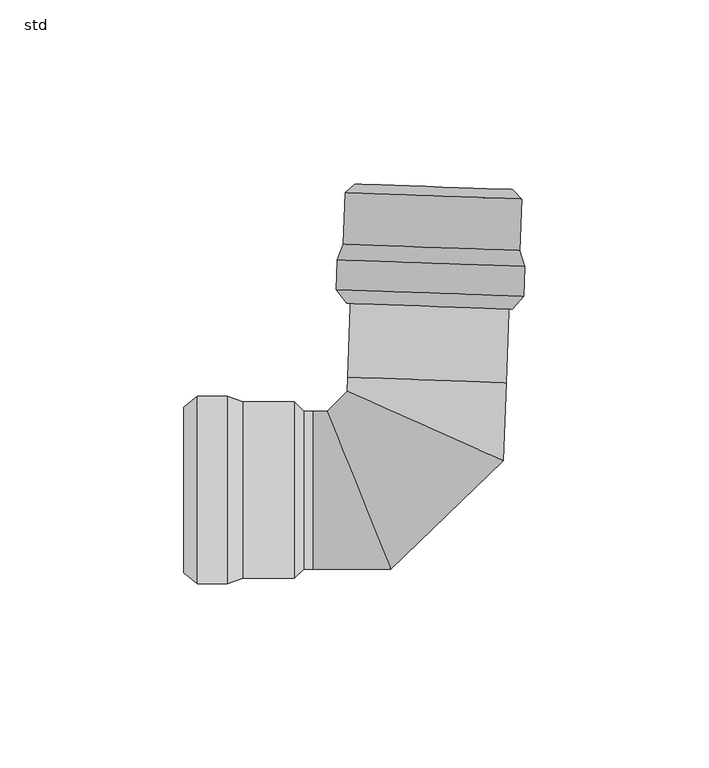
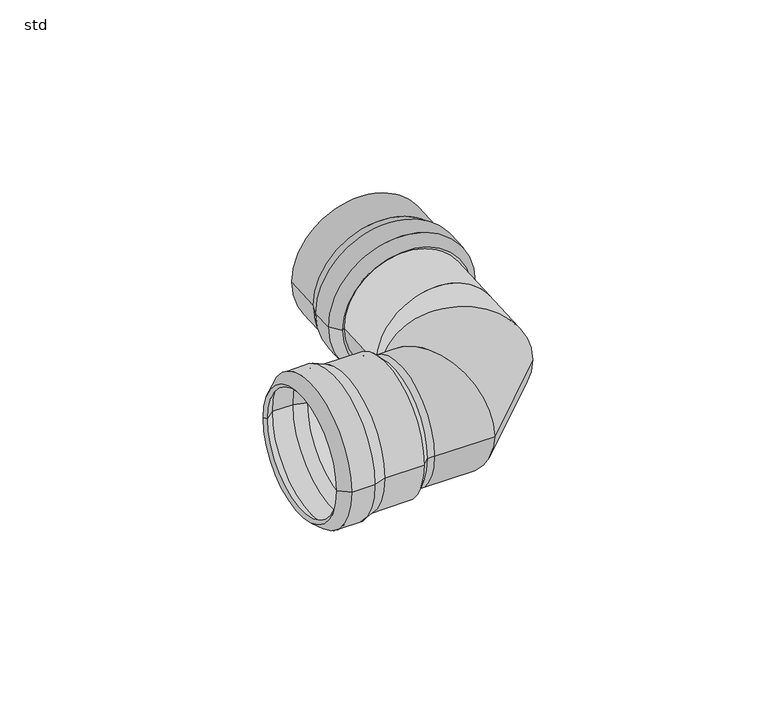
"""IFC4 building model written with IfcOpenShell, lengths in millimetres: pipe fitting geometry, PIF_ST_UN_GM-X angle bend 1a push socket_ACO : std."""

from ifc_helpers import new_model, si_unit, frame, origin, place, context, project, spatial, polyline, circle_curve, ellipse_curve, source, transform, mapped, element, save
from ifc_brep_helpers import plane_surface, cylinder_surface, revolved_surface, advanced_brep


def std_37057e49(model_context):
    return source(origin(), model_context, "Body", "AdvancedBrep", [
        advanced_brep(
        [(27.6425741, 60.7702896, 0.0), (-23.3262171, 62.5541973, 0.0), (-23.6074449, 54.5191173, 0.0), (27.3613463, 52.7352096, 0.0), (26.2938999, 65.1201261, 0.0), (-21.6767271, 66.7990981, 0.0), (-20.7373023, 50.7564212, 0.0), (24.2351605, 49.182385, 0.0), (26.7836001, 79.111559, 0.0), (-21.1870269, 80.7905309, 0.0), (24.3725764, 81.6974756, 0.0), (-18.6011103, 83.2015546, 0.0), (24.2851299, 79.1990055, 0.0), (-18.6885568, 80.7030845, 0.0), (24.7859291, 64.9186305, 0.0), (-20.1865337, 66.4926667, 0.0), (-19.6879448, 80.7380631, 0.0), (25.284518, 79.1640269, 0.0), (26.1346033, 60.568794, 0.0), (-21.8360237, 62.2477659, 0.0), (25.8810197, 53.3235488, 0.0), (-22.0896073, 55.0025208, 0.0), (23.1090431, 50.1732733, 0.0), (-19.5446632, 51.666153, 0.0)],
        [
            (0, 1, circle_curve(frame((2.1581785, 61.6622434, 0.0), z_axis=(-0.034978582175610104, -0.9993880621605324, 0.0), x_axis=(-0.9993880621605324, 0.034978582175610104, 0.0)), 25.5)),
            (1, 2),
            (2, 3, circle_curve(frame((1.8769507, 53.6271634, 0.0), z_axis=(0.034978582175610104, 0.9993880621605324, 0.0), x_axis=(-0.9993880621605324, 0.034978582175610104, 0.0)), 25.5)),
            (3, 0),
            (1, 0, circle_curve(frame((2.1581785, 61.6622434, 0.0), z_axis=(-0.034978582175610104, -0.9993880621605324, 0.0), x_axis=(-0.9993880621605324, 0.034978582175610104, 0.0)), 25.5)),
            (3, 2, circle_curve(frame((1.8769507, 53.6271634, 0.0), z_axis=(0.034978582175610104, 0.9993880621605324, 0.0), x_axis=(-0.9993880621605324, 0.034978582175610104, 0.0)), 25.5)),
            (4, 5, circle_curve(frame((2.3085864, 65.9596121, 0.0), z_axis=(-0.034978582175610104, -0.9993880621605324, 0.0), x_axis=(-0.9993880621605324, 0.034978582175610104, 0.0)), 24.0)),
            (5, 1),
            (0, 4),
            (5, 4, circle_curve(frame((2.3085864, 65.9596121, 0.0), z_axis=(-0.034978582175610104, -0.9993880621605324, 0.0), x_axis=(-0.9993880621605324, 0.034978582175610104, 0.0)), 24.0)),
            (2, 6),
            (6, 7, circle_curve(frame((1.7489291, 49.9694031, 0.0), z_axis=(0.034978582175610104, 0.9993880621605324, 0.0), x_axis=(-0.9993880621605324, 0.034978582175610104, 0.0)), 22.5)),
            (7, 3),
            (7, 6, circle_curve(frame((1.7489291, 49.9694031, 0.0), z_axis=(0.034978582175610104, 0.9993880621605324, 0.0), x_axis=(-0.9993880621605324, 0.034978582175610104, 0.0)), 22.5)),
            (8, 9, circle_curve(frame((2.7982866, 79.951045, 0.0), z_axis=(-0.034978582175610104, -0.9993880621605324, 0.0), x_axis=(-0.9993880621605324, 0.034978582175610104, 0.0)), 24.0)),
            (9, 5),
            (4, 8),
            (9, 8, circle_curve(frame((2.7982866, 79.951045, 0.0), z_axis=(-0.034978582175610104, -0.9993880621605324, 0.0), x_axis=(-0.9993880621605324, 0.034978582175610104, 0.0)), 24.0)),
            (10, 11, circle_curve(frame((2.885733, 82.4495151, 0.0), z_axis=(-0.034978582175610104, -0.9993880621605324, 0.0), x_axis=(-0.9993880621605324, 0.034978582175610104, 0.0)), 21.5)),
            (11, 9),
            (8, 10),
            (11, 10, circle_curve(frame((2.885733, 82.4495151, 0.0), z_axis=(-0.034978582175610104, -0.9993880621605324, 0.0), x_axis=(-0.9993880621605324, 0.034978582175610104, 0.0)), 21.5)),
            (12, 13, circle_curve(frame((2.7982866, 79.951045, 0.0), z_axis=(-0.034978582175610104, -0.9993880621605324, 0.0), x_axis=(-0.9993880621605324, 0.034978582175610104, 0.0)), 21.5)),
            (13, 11),
            (10, 12),
            (13, 12, circle_curve(frame((2.7982866, 79.951045, 0.0), z_axis=(-0.034978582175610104, -0.9993880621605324, 0.0), x_axis=(-0.9993880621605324, 0.034978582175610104, 0.0)), 21.5)),
            (14, 15, circle_curve(frame((2.2996977, 65.7056486, 0.0), z_axis=(-0.034978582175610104, -0.9993880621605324, 0.0), x_axis=(-0.9993880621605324, 0.034978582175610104, 0.0)), 22.5)),
            (15, 16),
            (16, 17, circle_curve(frame((2.7982866, 79.951045, 0.0), z_axis=(0.034978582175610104, 0.9993880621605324, 0.0), x_axis=(-0.9993880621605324, 0.034978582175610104, 0.0)), 22.5)),
            (17, 14),
            (15, 14, circle_curve(frame((2.2996977, 65.7056486, 0.0), z_axis=(-0.034978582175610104, -0.9993880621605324, 0.0), x_axis=(-0.9993880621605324, 0.034978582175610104, 0.0)), 22.5)),
            (17, 16, circle_curve(frame((2.7982866, 79.951045, 0.0), z_axis=(0.034978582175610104, 0.9993880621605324, 0.0), x_axis=(-0.9993880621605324, 0.034978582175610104, 0.0)), 22.5)),
            (18, 19, circle_curve(frame((2.1492898, 61.4082799, 0.0), z_axis=(-0.034978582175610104, -0.9993880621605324, 0.0), x_axis=(-0.9993880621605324, 0.034978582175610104, 0.0)), 24.0)),
            (19, 15),
            (14, 18),
            (19, 18, circle_curve(frame((2.1492898, 61.4082799, 0.0), z_axis=(-0.034978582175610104, -0.9993880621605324, 0.0), x_axis=(-0.9993880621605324, 0.034978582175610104, 0.0)), 24.0)),
            (20, 21, circle_curve(frame((1.8957062, 54.1630348, 0.0), z_axis=(-0.034978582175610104, -0.9993880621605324, 0.0), x_axis=(-0.9993880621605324, 0.034978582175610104, 0.0)), 24.0)),
            (21, 19),
            (18, 20),
            (21, 20, circle_curve(frame((1.8957062, 54.1630348, 0.0), z_axis=(-0.034978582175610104, -0.9993880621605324, 0.0), x_axis=(-0.9993880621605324, 0.034978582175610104, 0.0)), 24.0)),
            (22, 23, circle_curve(frame((1.78219, 50.9197132, 0.0), z_axis=(-0.034978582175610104, -0.9993880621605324, 0.0), x_axis=(-0.9993880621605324, 0.034978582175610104, 0.0)), 21.3399118)),
            (23, 21),
            (20, 22),
            (23, 22, circle_curve(frame((1.78219, 50.9197132, 0.0), z_axis=(-0.034978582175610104, -0.9993880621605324, 0.0), x_axis=(-0.9993880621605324, 0.034978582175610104, 0.0)), 21.3399118)),
            (6, 23),
            (22, 7),
            (16, 13),
            (12, 17),
        ],
        [
            cylinder_surface(frame((1.8663028, 53.322938, 0.0), z_axis=(0.034978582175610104, 0.9993880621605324, 0.0), x_axis=(-0.9993880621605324, 0.034978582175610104, 0.0)), 25.5),
            revolved_surface(polyline([(-23.3262171, 62.5541973, 0.0), (-21.6767271, 66.7990981, 0.0)]), (1.8663028, 53.322938, 0.0), (0.034978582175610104, 0.9993880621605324, 0.0)),
            revolved_surface(polyline([(-20.7373023, 50.7564212, 0.0), (-23.6074449, 54.5191173, 0.0)]), (1.8663028, 53.322938, 0.0), (0.034978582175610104, 0.9993880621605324, 0.0)),
            cylinder_surface(frame((1.8663028, 53.322938, 0.0), z_axis=(0.034978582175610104, 0.9993880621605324, 0.0), x_axis=(-0.9993880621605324, 0.034978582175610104, 0.0)), 24.0),
            revolved_surface(polyline([(-21.1870269, 80.7905309, 0.0), (-18.6011103, 83.2015546, 0.0)]), (1.8663028, 53.322938, 0.0), (0.034978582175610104, 0.9993880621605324, 0.0)),
            revolved_surface(polyline([(-18.60111033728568, 83.20155463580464, 0.0), (-18.688556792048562, 80.70308449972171, 0.0)]), (1.8663028, 53.322938, 0.0), (0.034978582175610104, 0.9993880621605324, 0.0)),
            revolved_surface(polyline([(-19.68794485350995, 80.73806310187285, 0.0), (-20.186533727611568, 66.49266669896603, 0.0)]), (1.8663028, 53.322938, 0.0), (0.034978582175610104, 0.9993880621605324, 0.0)),
            revolved_surface(polyline([(-20.1865337, 66.4926667, 0.0), (-21.8360237, 62.2477659, 0.0)]), (1.8663028, 53.322938, 0.0), (0.034978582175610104, 0.9993880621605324, 0.0)),
            revolved_surface(polyline([(-21.836023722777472, 62.2477659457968, 0.0), (-22.089607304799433, 55.002520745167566, 0.0)]), (1.8663028, 53.322938, 0.0), (0.034978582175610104, 0.9993880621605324, 0.0)),
            revolved_surface(polyline([(-22.0896073, 55.0025208, 0.0), (-19.5446632, 51.666153, 0.0)]), (1.8663028, 53.322938, 0.0), (0.034978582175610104, 0.9993880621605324, 0.0)),
            revolved_surface(polyline([(-19.5446632, 51.666153, 0.0), (-20.7373023, 50.7564212, 0.0)]), (1.8663028, 53.322938, 0.0), (0.034978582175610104, 0.9993880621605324, 0.0)),
            plane_surface(frame((2.7982866, 79.951045, 0.0), z_axis=(-0.034978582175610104, -0.9993880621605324, 0.0), x_axis=(-0.9993880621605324, 0.034978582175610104, 0.0))),
        ],
        [
            (0, [[1, 2, 3, 4]]),
            (0, [[5, -4, 6, -2]]),
            (1, [[7, 8, -1, 9]]),
            (1, [[10, -9, -5, -8]]),
            (2, [[-3, 11, 12, 13]]),
            (2, [[-6, -13, 14, -11]]),
            (3, [[15, 16, -7, 17]]),
            (3, [[18, -17, -10, -16]]),
            (4, [[19, 20, -15, 21]]),
            (4, [[22, -21, -18, -20]]),
            (5, [[23, 24, -19, 25]]),
            (5, [[26, -25, -22, -24]]),
            (6, [[27, 28, 29, 30]]),
            (6, [[31, -30, 32, -28]]),
            (7, [[33, 34, -27, 35]]),
            (7, [[36, -35, -31, -34]]),
            (8, [[37, 38, -33, 39]]),
            (8, [[40, -39, -36, -38]]),
            (9, [[41, 42, -37, 43]]),
            (9, [[44, -43, -40, -42]]),
            (10, [[-12, 45, -41, 46]]),
            (10, [[-14, -46, -44, -45]]),
            (11, [[-29, 47, -23, 48]]),
            (11, [[-32, -48, -26, -47]]),
        ],
    ),
        advanced_brep(
        [(-53.3, 25.5, 0.0), (-53.3, -25.5, 0.0), (-61.34, -25.5, 0.0), (-61.34, 25.5, 0.0), (-49.0, 24.0, 0.0), (-49.0, -24.0, 0.0), (-65.0, -22.5, 0.0), (-65.0, 22.5, 0.0), (-35.0, 24.0, 0.0), (-35.0, -24.0, 0.0), (-32.5, 21.5, 0.0), (-32.5, -21.5, 0.0), (-35.0, 21.5, 0.0), (-35.0, -21.5, 0.0), (-49.254119, 22.5, 0.0), (-49.254119, -22.5, 0.0), (-35.0, -22.5, 0.0), (-35.0, 22.5, 0.0), (-53.554119, 24.0, 0.0), (-53.554119, -24.0, 0.0), (-60.8038005, 24.0, 0.0), (-60.8038005, -24.0, 0.0), (-64.0491081, 21.3399118, 0.0), (-64.0491081, -21.3399118, 0.0)],
        [
            (0, 1, circle_curve(frame((-53.3, 0.0, 0.0), z_axis=(-1.0, 0.0, 0.0), x_axis=(0.0, -1.0, 0.0)), 25.5)),
            (1, 2),
            (2, 3, circle_curve(frame((-61.34, 0.0, 0.0), z_axis=(1.0, 0.0, 0.0), x_axis=(0.0, -1.0, 0.0)), 25.5)),
            (3, 0),
            (1, 0, circle_curve(frame((-53.3, 0.0, 0.0), z_axis=(-1.0, 0.0, 0.0), x_axis=(0.0, -1.0, 0.0)), 25.5)),
            (3, 2, circle_curve(frame((-61.34, 0.0, 0.0), z_axis=(1.0, 0.0, 0.0), x_axis=(0.0, -1.0, 0.0)), 25.5)),
            (4, 5, circle_curve(frame((-49.0, 0.0, 0.0), z_axis=(-1.0, 0.0, 0.0), x_axis=(0.0, -1.0, 0.0)), 24.0)),
            (5, 1),
            (0, 4),
            (5, 4, circle_curve(frame((-49.0, 0.0, 0.0), z_axis=(-1.0, 0.0, 0.0), x_axis=(0.0, -1.0, 0.0)), 24.0)),
            (2, 6),
            (6, 7, circle_curve(frame((-65.0, 0.0, 0.0), z_axis=(1.0, 0.0, 0.0), x_axis=(0.0, -1.0, 0.0)), 22.5)),
            (7, 3),
            (7, 6, circle_curve(frame((-65.0, 0.0, 0.0), z_axis=(1.0, 0.0, 0.0), x_axis=(0.0, -1.0, 0.0)), 22.5)),
            (8, 9, circle_curve(frame((-35.0, 0.0, 0.0), z_axis=(-1.0, 0.0, 0.0), x_axis=(0.0, -1.0, 0.0)), 24.0)),
            (9, 5),
            (4, 8),
            (9, 8, circle_curve(frame((-35.0, 0.0, 0.0), z_axis=(-1.0, 0.0, 0.0), x_axis=(0.0, -1.0, 0.0)), 24.0)),
            (10, 11, circle_curve(frame((-32.5, 0.0, 0.0), z_axis=(-1.0, 0.0, 0.0), x_axis=(0.0, -1.0, 0.0)), 21.5)),
            (11, 9),
            (8, 10),
            (11, 10, circle_curve(frame((-32.5, 0.0, 0.0), z_axis=(-1.0, 0.0, 0.0), x_axis=(0.0, -1.0, 0.0)), 21.5)),
            (12, 13, circle_curve(frame((-35.0, 0.0, 0.0), z_axis=(-1.0, 0.0, 0.0), x_axis=(0.0, -1.0, 0.0)), 21.5)),
            (13, 11),
            (10, 12),
            (13, 12, circle_curve(frame((-35.0, 0.0, 0.0), z_axis=(-1.0, 0.0, 0.0), x_axis=(0.0, -1.0, 0.0)), 21.5)),
            (14, 15, circle_curve(frame((-49.254119, 0.0, 0.0), z_axis=(-1.0, 0.0, 0.0), x_axis=(0.0, -1.0, 0.0)), 22.5)),
            (15, 16),
            (16, 17, circle_curve(frame((-35.0, 0.0, 0.0), z_axis=(1.0, 0.0, 0.0), x_axis=(0.0, -1.0, 0.0)), 22.5)),
            (17, 14),
            (15, 14, circle_curve(frame((-49.254119, 0.0, 0.0), z_axis=(-1.0, 0.0, 0.0), x_axis=(0.0, -1.0, 0.0)), 22.5)),
            (17, 16, circle_curve(frame((-35.0, 0.0, 0.0), z_axis=(1.0, 0.0, 0.0), x_axis=(0.0, -1.0, 0.0)), 22.5)),
            (18, 19, circle_curve(frame((-53.554119, 0.0, 0.0), z_axis=(-1.0, 0.0, 0.0), x_axis=(0.0, -1.0, 0.0)), 24.0)),
            (19, 15),
            (14, 18),
            (19, 18, circle_curve(frame((-53.554119, 0.0, 0.0), z_axis=(-1.0, 0.0, 0.0), x_axis=(0.0, -1.0, 0.0)), 24.0)),
            (20, 21, circle_curve(frame((-60.8038005, 0.0, 0.0), z_axis=(-1.0, 0.0, 0.0), x_axis=(0.0, -1.0, 0.0)), 24.0)),
            (21, 19),
            (18, 20),
            (21, 20, circle_curve(frame((-60.8038005, 0.0, 0.0), z_axis=(-1.0, 0.0, 0.0), x_axis=(0.0, -1.0, 0.0)), 24.0)),
            (22, 23, circle_curve(frame((-64.0491081, 0.0, 0.0), z_axis=(-1.0, 0.0, 0.0), x_axis=(0.0, -1.0, 0.0)), 21.3399118)),
            (23, 21),
            (20, 22),
            (23, 22, circle_curve(frame((-64.0491081, 0.0, 0.0), z_axis=(-1.0, 0.0, 0.0), x_axis=(0.0, -1.0, 0.0)), 21.3399118)),
            (6, 23),
            (22, 7),
            (16, 13),
            (12, 17),
        ],
        [
            cylinder_surface(frame((-61.6444117, 0.0, 0.0), z_axis=(1.0, 0.0, 0.0), x_axis=(0.0, -1.0, 0.0)), 25.5),
            revolved_surface(polyline([(-53.3, -25.5, 0.0), (-49.0, -24.0, 0.0)]), (-61.6444117, 0.0, 0.0), (1.0, 0.0, 0.0)),
            revolved_surface(polyline([(-65.0, -22.5, 0.0), (-61.34, -25.5, 0.0)]), (-61.6444117, 0.0, 0.0), (1.0, 0.0, 0.0)),
            cylinder_surface(frame((-61.6444117, 0.0, 0.0), z_axis=(1.0, 0.0, 0.0), x_axis=(0.0, -1.0, 0.0)), 24.0),
            revolved_surface(polyline([(-35.0, -24.0, 0.0), (-32.5, -21.5, 0.0)]), (-61.6444117, 0.0, 0.0), (1.0, 0.0, 0.0)),
            revolved_surface(polyline([(-32.5, -21.5, 0.0), (-35.0, -21.5, 0.0)]), (-61.6444117, 0.0, 0.0), (1.0, 0.0, 0.0)),
            revolved_surface(polyline([(-35.0, -22.5, 0.0), (-49.254119, -22.5, 0.0)]), (-61.6444117, 0.0, 0.0), (1.0, 0.0, 0.0)),
            revolved_surface(polyline([(-49.254119, -22.5, 0.0), (-53.554119, -24.0, 0.0)]), (-61.6444117, 0.0, 0.0), (1.0, 0.0, 0.0)),
            revolved_surface(polyline([(-53.554119, -24.0, 0.0), (-60.8038005, -24.0, 0.0)]), (-61.6444117, 0.0, 0.0), (1.0, 0.0, 0.0)),
            revolved_surface(polyline([(-60.8038005, -24.0, 0.0), (-64.0491081, -21.3399118, 0.0)]), (-61.6444117, 0.0, 0.0), (1.0, 0.0, 0.0)),
            revolved_surface(polyline([(-64.0491081, -21.3399118, 0.0), (-65.0, -22.5, 0.0)]), (-61.6444117, 0.0, 0.0), (1.0, 0.0, 0.0)),
            plane_surface(frame((-35.0, 0.0, 0.0), z_axis=(-1.0, 0.0, 0.0), x_axis=(0.0, -1.0, 0.0))),
        ],
        [
            (0, [[1, 2, 3, 4]]),
            (0, [[5, -4, 6, -2]]),
            (1, [[7, 8, -1, 9]]),
            (1, [[10, -9, -5, -8]]),
            (2, [[-3, 11, 12, 13]]),
            (2, [[-6, -13, 14, -11]]),
            (3, [[15, 16, -7, 17]]),
            (3, [[18, -17, -10, -16]]),
            (4, [[19, 20, -15, 21]]),
            (4, [[22, -21, -18, -20]]),
            (5, [[23, 24, -19, 25]]),
            (5, [[26, -25, -22, -24]]),
            (6, [[27, 28, 29, 30]]),
            (6, [[31, -30, 32, -28]]),
            (7, [[33, 34, -27, 35]]),
            (7, [[36, -35, -31, -34]]),
            (8, [[37, 38, -33, 39]]),
            (8, [[40, -39, -36, -38]]),
            (9, [[41, 42, -37, 43]]),
            (9, [[44, -43, -40, -42]]),
            (10, [[-12, 45, -41, 46]]),
            (10, [[-14, -46, -44, -45]]),
            (11, [[-29, 47, -23, 48]]),
            (11, [[-32, -48, -26, -47]]),
        ],
    ),
        advanced_brep(
        [(-35.0, -21.5, 0.0), (-35.0, 21.5, 0.0), (-30.0, 21.5, 0.0), (-30.0, -21.5, 0.0), (-18.6885568, 80.7030845, 0.0), (24.2851299, 79.1990055, 0.0), (22.5362008, 29.2296023, 0.0), (-20.4374859, 30.7336814, 0.0), (-8.7622099, -21.5, 0.0), (-26.134348, 21.5, 0.0), (21.793333, 8.0048084, 0.0), (-20.5727009, 26.8703949, 0.0)],
        [
            (0, 1, circle_curve(frame((-35.0, 0.0, 0.0), z_axis=(-1.0, 0.0, 0.0), x_axis=(0.0, 1.0, 0.0)), 21.5)),
            (1, 0, circle_curve(frame((-35.0, 0.0, 0.0), z_axis=(-1.0, 0.0, 0.0), x_axis=(0.0, 1.0, 0.0)), 21.5)),
            (1, 2),
            (2, 3, circle_curve(frame((-30.0, 0.0, 0.0), z_axis=(-1.0, 0.0, 0.0), x_axis=(0.0, 1.0, 0.0)), 21.5)),
            (3, 0),
            (3, 2, circle_curve(frame((-30.0, 0.0, 0.0), z_axis=(-1.0, 0.0, 0.0), x_axis=(0.0, 1.0, 0.0)), 21.5)),
            (4, 5, circle_curve(frame((2.7982866, 79.951045, 0.0), z_axis=(0.0349785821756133, 0.9993880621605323, 0.0), x_axis=(0.9993880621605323, -0.0349785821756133, 0.0)), 21.5)),
            (5, 4, circle_curve(frame((2.7982866, 79.951045, 0.0), z_axis=(0.0349785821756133, 0.9993880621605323, 0.0), x_axis=(0.9993880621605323, -0.0349785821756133, 0.0)), 21.5)),
            (5, 6),
            (6, 7, circle_curve(frame((1.0493575, 29.9816419, 0.0), z_axis=(0.0349785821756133, 0.9993880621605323, 0.0), x_axis=(0.9993880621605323, -0.0349785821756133, 0.0)), 21.5)),
            (7, 4),
            (7, 6, circle_curve(frame((1.0493575, 29.9816419, 0.0), z_axis=(0.0349785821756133, 0.9993880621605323, 0.0), x_axis=(0.9993880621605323, -0.0349785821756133, 0.0)), 21.5)),
            (3, 8),
            (8, 9, ellipse_curve(frame((-17.4482789, 0.0, 0.0), z_axis=(-0.9271912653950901, -0.37458825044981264, 0.0), x_axis=(-0.3745882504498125, 0.92719126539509, 0.0)), 23.1883116, 21.5)),
            (9, 2),
            (9, 8, ellipse_curve(frame((-17.4482789, 0.0, 0.0), z_axis=(-0.9271912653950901, -0.37458825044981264, 0.0), x_axis=(-0.3745882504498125, 0.92719126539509, 0.0)), 23.1883116, 21.5)),
            (8, 10),
            (10, 11, ellipse_curve(frame((0.6103161, 17.4376017, 0.0), z_axis=(-0.40679086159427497, -0.913521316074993, 0.0), x_axis=(-0.9135213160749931, 0.40679086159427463, 0.0)), 23.1883116, 21.5)),
            (11, 9),
            (11, 10, ellipse_curve(frame((0.6103161, 17.4376017, 0.0), z_axis=(-0.40679086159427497, -0.913521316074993, 0.0), x_axis=(-0.9135213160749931, 0.40679086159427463, 0.0)), 23.1883116, 21.5)),
            (10, 6),
            (7, 11),
        ],
        [
            plane_surface(frame((-35.0, 21.5, 0.0), z_axis=(-1.0, 0.0, 0.0), x_axis=(0.0, 0.0, -1.0))),
            cylinder_surface(frame((-35.0, 0.0, 0.0), z_axis=(1.0, 0.0, 0.0), x_axis=(0.0, 1.0, 0.0)), 21.5),
            plane_surface(frame((24.2851299, 79.1990055, 0.0), z_axis=(0.0349785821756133, 0.9993880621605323, 0.0), x_axis=(0.0, 0.0, -1.0))),
            cylinder_surface(frame((2.7982866, 79.951045, 0.0), z_axis=(-0.0349785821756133, -0.9993880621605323, 0.0), x_axis=(0.9993880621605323, -0.0349785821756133, 0.0)), 21.5),
            cylinder_surface(frame((-30.0, 0.0, 0.0), z_axis=(-1.0, 0.0, 0.0), x_axis=(0.0, 1.0, 0.0)), 21.5),
            cylinder_surface(frame((-17.4482789, 0.0, 0.0), z_axis=(-0.7193672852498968, -0.6946299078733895, 0.0), x_axis=(-0.6946299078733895, 0.7193672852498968, 0.0)), 21.5),
            cylinder_surface(frame((0.6103161, 17.4376017, 0.0), z_axis=(-0.03497858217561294, -0.9993880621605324, 0.0), x_axis=(-0.9993880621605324, 0.03497858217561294, 0.0)), 21.5),
        ],
        [
            (0, [[1, 2]]),
            (1, [[-2, 3, 4, 5]]),
            (1, [[-1, -5, 6, -3]]),
            (2, [[7, 8]]),
            (3, [[-8, 9, 10, 11]]),
            (3, [[-7, -11, 12, -9]]),
            (4, [[13, 14, 15, -6]]),
            (4, [[-13, -4, -15, 16]]),
            (5, [[-14, 17, 18, 19]]),
            (5, [[-16, -19, 20, -17]]),
            (6, [[-18, 21, -12, 22]]),
            (6, [[-20, -22, -10, -21]]),
        ],
    ),
    ])


if __name__ == "__main__":
    model = new_model("IFC4")
    model_context = context("Model", 3, world=origin())
    ifc_project = project(units=[si_unit("LENGTHUNIT", "METRE", prefix="MILLI")], contexts=[model_context])
    site = spatial("IfcSite", under=ifc_project)
    building = spatial("IfcBuilding", under=site)
    placement = place(None, origin())
    std_shape = std_37057e49(model_context)
    element("IfcPipeFitting", 1, ObjectType="PIF_ST_UN_GM-X angle bend 1a push socket_ACO : std", at=placement, inside=building, context=model_context, shape_type="MappedRepresentation", body=[
        mapped(std_shape, transform((0.0, 0.0, 0.0), x_axis=(1.0, 0.0, 0.0), y_axis=(0.0, 1.0, 0.0), z_axis=(0.0, 0.0, 1.0))),
    ])
    save(model, "model.ifc")
